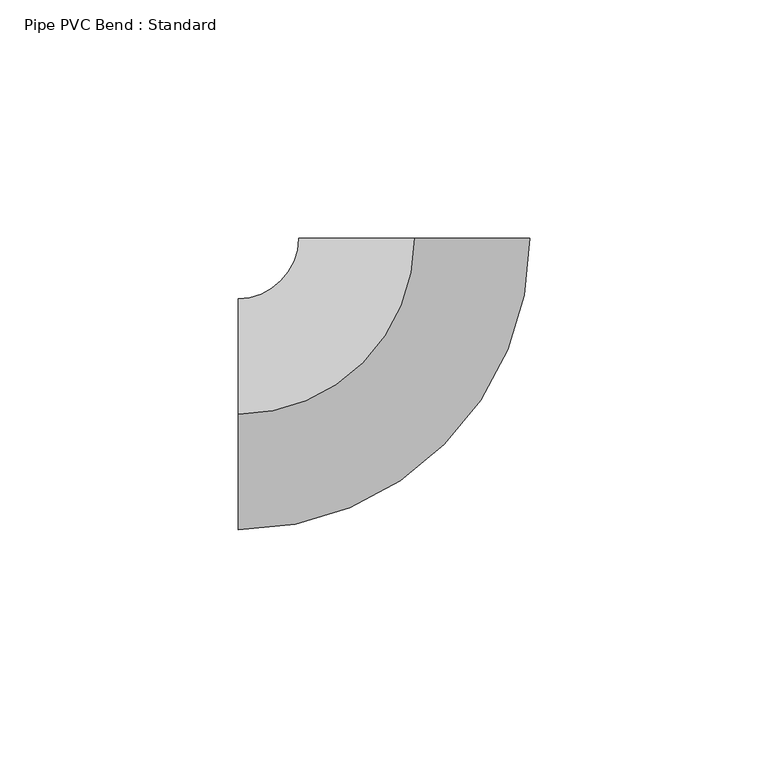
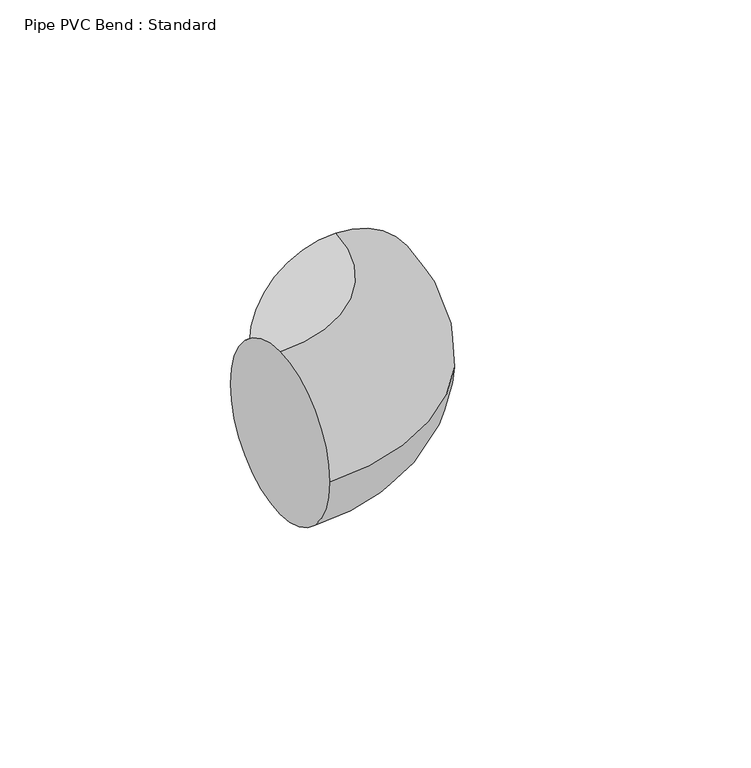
"""IFC4 building model written with IfcOpenShell, lengths in millimetres: pipe fitting geometry, Pipe PVC Bend : Standard."""

import ifcopenshell
import ifcopenshell.guid

model = None  # the IFC model being written
_history = None  # IfcOwnerHistory: only IFC2X3 demands one
_inside = {}  # id of a spatial element -> (the spatial element, [elements in it])
_under = {}  # id of a project, library or spatial element -> (it, [spatial elements below it])
_declared = {}  # id of a project -> (the project, [libraries it declares])
_typed = {}  # id of a type object -> (the type object, [elements of that type])
_made_of = {}  # id of a material, layer set ... -> (it, [elements and type objects made of it])


def new_model(schema):
    """Start an empty IFC model of exactly this schema.

    Asked for "IFC4X3", IfcOpenShell would pick the latest addendum, in which some entities
    have other attributes; the version numbers below select the first issue.
    IFC2X3 requires an IfcOwnerHistory on every rooted entity: one is made here for all.
    """
    global model, _history
    if schema == "IFC4X3":
        model = ifcopenshell.file(schema_version=(4, 3, 0, 0))
    else:
        model = ifcopenshell.file(schema=schema)
    _inside.clear()
    _under.clear()
    _declared.clear()
    _typed.clear()
    _made_of.clear()
    _history = None
    if model.schema == "IFC2X3":
        org = make("IfcOrganization", Name="unknown")
        user = make(
            "IfcPersonAndOrganization",
            ThePerson=make("IfcPerson", FamilyName="unknown"),
            TheOrganization=org,
        )
        app = make(
            "IfcApplication",
            ApplicationDeveloper=org,
            Version="unknown",
            ApplicationFullName="unknown",
            ApplicationIdentifier="unknown",
        )
        _history = make(
            "IfcOwnerHistory",
            OwningUser=user,
            OwningApplication=app,
            ChangeAction="ADDED",
            CreationDate=0,
        )
    return model


def make(cls, **values):
    """One entity of the class cls with the attributes given. An attribute that is None is left unset."""
    return model.create_entity(
        cls, **{name: value for name, value in values.items() if value is not None}
    )


def rooted(cls, **values):
    """An entity with a GlobalId (a new one), such as an element, a storey or a relation."""
    return make(cls, GlobalId=ifcopenshell.guid.new(), OwnerHistory=_history, **values)


def si_unit(unit_type, name, prefix=None):
    """IfcSIUnit, for example si_unit("LENGTHUNIT", "METRE", prefix="MILLI")."""
    return make("IfcSIUnit", UnitType=unit_type, Prefix=prefix, Name=name)


def assignment(units):
    """IfcUnitAssignment: the units of a project."""
    return None if units is None else make("IfcUnitAssignment", Units=units)


def point(xyz):
    """IfcCartesianPoint."""
    return None if xyz is None else make("IfcCartesianPoint", Coordinates=xyz)


def direction(xyz):
    """IfcDirection."""
    return None if xyz is None else make("IfcDirection", DirectionRatios=xyz)


def frame(location, z_axis=None, x_axis=None):
    """IfcAxis2Placement3D, a coordinate frame: its origin and axes. An axis left out is left unset."""
    return make(
        "IfcAxis2Placement3D",
        Location=point(location),
        Axis=direction(z_axis),
        RefDirection=direction(x_axis),
    )


def origin():
    """The frame at (0, 0, 0) with its axes left unset."""
    return frame((0.0, 0.0, 0.0))


def place(relative_to, where):
    """IfcLocalPlacement: puts the frame where relative to a parent placement (None: the world)."""
    return make(
        "IfcLocalPlacement", PlacementRelTo=relative_to, RelativePlacement=where
    )


def context(
    kind, dimensions, precision=None, world=None, true_north=None, identifier=None
):
    """IfcGeometricRepresentationContext, for example the 3D "Model" context."""
    return make(
        "IfcGeometricRepresentationContext",
        ContextIdentifier=identifier,
        ContextType=kind,
        CoordinateSpaceDimension=dimensions,
        Precision=precision,
        WorldCoordinateSystem=world,
        TrueNorth=true_north,
    )


def project(units=None, contexts=None):
    """IfcProject with its units and contexts."""
    return rooted(
        "IfcProject",
        Name="project",
        RepresentationContexts=contexts,
        UnitsInContext=assignment(units),
    )


def spatial(cls, under=None, at=None, **own):
    """A site, building, storey or space (cls), placed at a placement, below another one or the project."""
    s = rooted(cls, ObjectPlacement=at, **own)
    if under is not None:
        _under.setdefault(under.id(), (under, []))[1].append(s)
    return s


def circle_curve(where, radius):
    """IfcCircle in the frame where."""
    return make("IfcCircle", Position=where, Radius=radius)


def ellipse_curve(where, semi_axis1, semi_axis2):
    """IfcEllipse in the frame where."""
    return make(
        "IfcEllipse", Position=where, SemiAxis1=semi_axis1, SemiAxis2=semi_axis2
    )


def trimmed(basis, trim1, trim2, sense, master):
    """IfcTrimmedCurve: the piece of a basis curve between two trims."""
    return make(
        "IfcTrimmedCurve",
        BasisCurve=basis,
        Trim1=trim1,
        Trim2=trim2,
        SenseAgreement=sense,
        MasterRepresentation=master,
    )


def shape(context_of_items, identifier, shape_type, items):
    """IfcShapeRepresentation: the items that make up one representation, for example the "Body"."""
    return make(
        "IfcShapeRepresentation",
        ContextOfItems=context_of_items,
        RepresentationIdentifier=identifier,
        RepresentationType=shape_type,
        Items=items,
    )


def source(mapping_origin, context_of_items, identifier, shape_type, items):
    """IfcRepresentationMap: a shape defined once, which mapped items show again and again."""
    return make(
        "IfcRepresentationMap",
        MappingOrigin=mapping_origin,
        MappedRepresentation=shape(context_of_items, identifier, shape_type, items),
    )


def transform(
    local_origin,
    x_axis=None,
    y_axis=None,
    z_axis=None,
    scale=None,
    scale2=None,
    scale3=None,
    uniform=True,
):
    """IfcCartesianTransformationOperator3D, or its non-uniform kind. x_axis, y_axis, z_axis: its Axis1, 2, 3."""
    if uniform:
        return make(
            "IfcCartesianTransformationOperator3D",
            Axis1=direction(x_axis),
            Axis2=direction(y_axis),
            LocalOrigin=point(local_origin),
            Scale=scale,
            Axis3=direction(z_axis),
        )
    return make(
        "IfcCartesianTransformationOperator3DnonUniform",
        Axis1=direction(x_axis),
        Axis2=direction(y_axis),
        LocalOrigin=point(local_origin),
        Scale=scale,
        Axis3=direction(z_axis),
        Scale2=scale2,
        Scale3=scale3,
    )


def mapped(mapping_source, mapping_target):
    """IfcMappedItem: shows the shape of a source again, moved by a transform."""
    return make(
        "IfcMappedItem", MappingSource=mapping_source, MappingTarget=mapping_target
    )


def made_of(thing, what):
    """Note that an element or type object is made of a material, layer set ...; save() writes the relation."""
    if what is not None:
        _made_of.setdefault(what.id(), (what, []))[1].append(thing)
    return thing


def element(
    cls,
    number,
    at=None,
    inside=None,
    cuts=None,
    type_object=None,
    material=None,
    context=None,
    identifier="Body",
    shape_type=None,
    held_by="IfcProductDefinitionShape",
    body=None,
    shapes=None,
    **own,
):
    """One element of the class cls, such as IfcWall. Its Tag is "e" and its number.

    at: its placement. inside: the storey or other place that contains it. cuts: it is an
    opening in that element (IfcRelVoidsElement). A single representation is given by context,
    identifier, shape_type and body (its items); several are given by shapes. held_by: the class
    of the entity that holds the representations. save() writes the other relations.
    """
    e = rooted(cls, Tag="e%d" % number, ObjectPlacement=at, **own)
    if body is not None:
        shapes = [shape(context, identifier, shape_type, body)]
    if shapes is not None:
        e.Representation = make(held_by, Representations=shapes)
    if inside is not None:
        _inside.setdefault(inside.id(), (inside, []))[1].append(e)
    if cuts is not None:
        rooted(
            "IfcRelVoidsElement", RelatingBuildingElement=cuts, RelatedOpeningElement=e
        )
    if type_object is not None:
        _typed.setdefault(type_object.id(), (type_object, []))[1].append(e)
    return made_of(e, material)


def aggregate(whole, parts):
    """IfcRelAggregates: a whole, such as a stair, and the parts it consists of."""
    return rooted("IfcRelAggregates", RelatingObject=whole, RelatedObjects=parts)


def save(model, path):
    """Write the relations noted so far, then the file.

    IfcRelAggregates (storeys below a building ...), IfcRelContainedInSpatialStructure (elements
    in a storey), IfcRelDefinesByType, IfcRelAssociatesMaterial and IfcRelDeclares: one each for
    every whole, place, type object, material and project.
    """
    for whole, parts in _under.values():
        aggregate(whole, parts)
    for where, things in _inside.values():
        rooted(
            "IfcRelContainedInSpatialStructure",
            RelatedElements=things,
            RelatingStructure=where,
        )
    for kind, things in _typed.values():
        rooted("IfcRelDefinesByType", RelatedObjects=things, RelatingType=kind)
    for what, things in _made_of.values():
        rooted("IfcRelAssociatesMaterial", RelatedObjects=things, RelatingMaterial=what)
    for by, libraries in _declared.values():
        rooted("IfcRelDeclares", RelatingContext=by, RelatedDefinitions=libraries)
    model.write(path)


def plane_surface(at):
    """IfcPlane: the flat surface through the origin of the frame at, square to its z axis."""
    return make("IfcPlane", Position=at)


def revolved_surface(curve, axis_point, axis_direction):
    """IfcSurfaceOfRevolution: the curve turned about the line through axis_point along axis_direction."""
    return make(
        "IfcSurfaceOfRevolution",
        SweptCurve=make("IfcArbitraryOpenProfileDef", ProfileType="CURVE", Curve=curve),
        AxisPosition=make("IfcAxis1Placement", Location=point(axis_point), Axis=direction(axis_direction)),
    )


def advanced_brep(points, edges, surfaces, faces):
    """IfcAdvancedBrep: a solid bounded by faces that lie on surfaces and meet in shared edges.

    An edge is (start, end): straight between two places in points (the first is 0);
    or (start, end, curve); or (start, end, curve, False) where it runs against its curve.
    A face is (place in surfaces, loops), or (place, loops, False) where it looks against
    its surface's normal. A loop lists edges by number (the first is 1), with a minus sign
    where the edge is run from its end to its start. The first loop is the outer one.
    """
    corners = [point(p) for p in points]
    vertices = [make("IfcVertexPoint", VertexGeometry=c) for c in corners]
    made = []
    for start, end, *more in edges:
        made.append(
            make(
                "IfcEdgeCurve",
                EdgeStart=vertices[start],
                EdgeEnd=vertices[end],
                EdgeGeometry=more[0] if more else make("IfcPolyline", Points=[corners[start], corners[end]]),
                SameSense=more[1] if len(more) > 1 else True,
            )
        )
    hull = []
    for where, loops, *sense in faces:
        bounds = []
        for j, loop in enumerate(loops):
            ring = [make("IfcOrientedEdge", EdgeElement=made[abs(k) - 1], Orientation=k > 0) for k in loop]
            bounds.append(
                make(
                    "IfcFaceOuterBound" if j == 0 else "IfcFaceBound",
                    Bound=make("IfcEdgeLoop", EdgeList=ring),
                    Orientation=True,
                )
            )
        hull.append(make("IfcAdvancedFace", Bounds=bounds, FaceSurface=surfaces[where], SameSense=sense[0] if sense else True))
    return make("IfcAdvancedBrep", Outer=make("IfcClosedShell", CfsFaces=hull))


def pipe_pvc_bend_standard_b9ac6717(model_context):
    return source(origin(), model_context, "Body", "AdvancedBrep", [
        advanced_brep(
        [(-36.9529906, 0.0, 24.257), (-36.9529906, 24.257, 0.0), (-36.9529906, 0.0, -24.257), (-36.9529906, -24.257, 0.0), (0.0040092, 36.9529903, 24.257), (24.2610091, 36.9503586, 0.0), (0.0040092, 36.9529903, -24.257), (-24.2529906, 36.9556221, 0.0)],
        [
            (0, 1, circle_curve(frame((-36.9529906, 0.0, 0.0), z_axis=(-1.0, 0.0, 0.0), x_axis=(0.0, 1.0, 0.0)), 24.257)),
            (1, 2, circle_curve(frame((-36.9529906, 0.0, 0.0), z_axis=(-1.0, 0.0, 0.0), x_axis=(0.0, 1.0, 0.0)), 24.257)),
            (2, 3, circle_curve(frame((-36.9529906, 0.0, 0.0), z_axis=(-1.0, 0.0, 0.0), x_axis=(0.0, 1.0, 0.0)), 24.257)),
            (3, 0, circle_curve(frame((-36.9529906, 0.0, 0.0), z_axis=(-1.0, 0.0, 0.0), x_axis=(0.0, 1.0, 0.0)), 24.257)),
            (4, 5, circle_curve(frame((0.0040092, 36.9529903, 0.0), z_axis=(0.0001084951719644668, 0.9999999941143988, 0.0), x_axis=(-0.9999999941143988, 0.0001084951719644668, 0.0)), 24.257)),
            (5, 6, circle_curve(frame((0.0040092, 36.9529903, 0.0), z_axis=(0.0001084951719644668, 0.9999999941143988, 0.0), x_axis=(-0.9999999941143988, 0.0001084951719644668, 0.0)), 24.257)),
            (6, 7, circle_curve(frame((0.0040092, 36.9529903, 0.0), z_axis=(0.0001084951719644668, 0.9999999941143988, 0.0), x_axis=(-0.9999999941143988, 0.0001084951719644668, 0.0)), 24.257)),
            (7, 4, circle_curve(frame((0.0040092, 36.9529903, 0.0), z_axis=(0.0001084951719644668, 0.9999999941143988, 0.0), x_axis=(-0.9999999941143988, 0.0001084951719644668, 0.0)), 24.257)),
            (7, 1, circle_curve(frame((-36.9529906, 36.957, 0.0), z_axis=(0.0, 0.0, -1.0), x_axis=(0.0, -1.0, 0.0)), 12.7)),
            (0, 4, circle_curve(frame((-36.9529906, 36.957, 24.257), z_axis=(0.0, 0.0, 1.0), x_axis=(0.0, -1.0, 0.0)), 36.957)),
            (6, 2, circle_curve(frame((-36.9529906, 36.957, -24.257), z_axis=(0.0, 0.0, -1.0), x_axis=(0.0, -1.0, 0.0)), 36.957)),
            (5, 3, circle_curve(frame((-36.9529906, 36.957, 0.0), z_axis=(0.0, 0.0, -1.0), x_axis=(0.0, -1.0, 0.0)), 61.214)),
        ],
        [
            plane_surface(frame((-36.9529906, 0.0, 0.0), z_axis=(-1.0, 0.0, 0.0), x_axis=(0.0, 0.0, 1.0))),
            plane_surface(frame((0.0040092, 36.9529903, 0.0), z_axis=(0.00010849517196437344, 0.9999999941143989, 0.0), x_axis=(0.0, 0.0, 1.0))),
            revolved_surface(trimmed(ellipse_curve(frame((-36.9529906, 0.0, 0.0), z_axis=(-1.0, 0.0, 0.0), x_axis=(0.0, 1.0, 0.0)), 24.257, 24.257), [point((-36.9529906, 0.0, 24.257))], [point((-36.9529906, 24.257, 0.0))], True, "CARTESIAN"), (-36.9529906, 36.957, 0.0), (0.0, 0.0, 1.0)),
            revolved_surface(trimmed(ellipse_curve(frame((-36.9529906, 0.0, 0.0), z_axis=(-1.0, 0.0, 0.0), x_axis=(0.0, 1.0, 0.0)), 24.257, 24.257), [point((-36.9529906, 24.257, 0.0))], [point((-36.9529906, 0.0, -24.257))], True, "CARTESIAN"), (-36.9529906, 36.957, 0.0), (0.0, 0.0, 1.0)),
            revolved_surface(trimmed(ellipse_curve(frame((-36.9529906, 0.0, 0.0), z_axis=(-1.0, 0.0, 0.0), x_axis=(0.0, 1.0, 0.0)), 24.257, 24.257), [point((-36.9529906, 0.0, -24.257))], [point((-36.9529906, -24.257, 0.0))], True, "CARTESIAN"), (-36.9529906, 36.957, 0.0), (0.0, 0.0, 1.0)),
            revolved_surface(trimmed(ellipse_curve(frame((-36.9529906, 0.0, 0.0), z_axis=(-1.0, 0.0, 0.0), x_axis=(0.0, 1.0, 0.0)), 24.257, 24.257), [point((-36.9529906, -24.257, 0.0))], [point((-36.9529906, 0.0, 24.257))], True, "CARTESIAN"), (-36.9529906, 36.957, 0.0), (0.0, 0.0, 1.0)),
        ],
        [
            (0, [[1, 2, 3, 4]]),
            (1, [[5, 6, 7, 8]]),
            (2, [[9, -1, 10, -8]]),
            (3, [[11, -2, -9, -7]]),
            (4, [[12, -3, -11, -6]]),
            (5, [[-10, -4, -12, -5]]),
        ],
    ),
        advanced_brep(
        [(-36.9529906, 0.0, 24.257), (-36.9529906, 24.257, 0.0), (-36.9529906, 0.0, -24.257), (-36.9529906, -24.257, 0.0), (0.0040092, 36.9529903, 24.257), (24.2610091, 36.9503586, 0.0), (0.0040092, 36.9529903, -24.257), (-24.2529906, 36.9556221, 0.0)],
        [
            (0, 1, circle_curve(frame((-36.9529906, 0.0, 0.0), z_axis=(-1.0, 0.0, 0.0), x_axis=(0.0, 1.0, 0.0)), 24.257)),
            (1, 2, circle_curve(frame((-36.9529906, 0.0, 0.0), z_axis=(-1.0, 0.0, 0.0), x_axis=(0.0, 1.0, 0.0)), 24.257)),
            (2, 3, circle_curve(frame((-36.9529906, 0.0, 0.0), z_axis=(-1.0, 0.0, 0.0), x_axis=(0.0, 1.0, 0.0)), 24.257)),
            (3, 0, circle_curve(frame((-36.9529906, 0.0, 0.0), z_axis=(-1.0, 0.0, 0.0), x_axis=(0.0, 1.0, 0.0)), 24.257)),
            (4, 5, circle_curve(frame((0.0040092, 36.9529903, 0.0), z_axis=(0.0001084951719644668, 0.9999999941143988, 0.0), x_axis=(-0.9999999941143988, 0.0001084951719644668, 0.0)), 24.257)),
            (5, 6, circle_curve(frame((0.0040092, 36.9529903, 0.0), z_axis=(0.0001084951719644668, 0.9999999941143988, 0.0), x_axis=(-0.9999999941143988, 0.0001084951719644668, 0.0)), 24.257)),
            (6, 7, circle_curve(frame((0.0040092, 36.9529903, 0.0), z_axis=(0.0001084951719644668, 0.9999999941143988, 0.0), x_axis=(-0.9999999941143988, 0.0001084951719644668, 0.0)), 24.257)),
            (7, 4, circle_curve(frame((0.0040092, 36.9529903, 0.0), z_axis=(0.0001084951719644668, 0.9999999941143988, 0.0), x_axis=(-0.9999999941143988, 0.0001084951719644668, 0.0)), 24.257)),
            (7, 1, circle_curve(frame((-36.9529906, 36.957, 0.0), z_axis=(0.0, 0.0, -1.0), x_axis=(0.0, -1.0, 0.0)), 12.7)),
            (0, 4, circle_curve(frame((-36.9529906, 36.957, 24.257), z_axis=(0.0, 0.0, 1.0), x_axis=(0.0, -1.0, 0.0)), 36.957)),
            (6, 2, circle_curve(frame((-36.9529906, 36.957, -24.257), z_axis=(0.0, 0.0, -1.0), x_axis=(0.0, -1.0, 0.0)), 36.957)),
            (5, 3, circle_curve(frame((-36.9529906, 36.957, 0.0), z_axis=(0.0, 0.0, -1.0), x_axis=(0.0, -1.0, 0.0)), 61.214)),
        ],
        [
            plane_surface(frame((-36.9529906, 0.0, 0.0), z_axis=(-1.0, 0.0, 0.0), x_axis=(0.0, 0.0, 1.0))),
            plane_surface(frame((0.0040092, 36.9529903, 0.0), z_axis=(0.00010849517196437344, 0.9999999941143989, 0.0), x_axis=(0.0, 0.0, 1.0))),
            revolved_surface(trimmed(ellipse_curve(frame((-36.9529906, 0.0, 0.0), z_axis=(-1.0, 0.0, 0.0), x_axis=(0.0, 1.0, 0.0)), 24.257, 24.257), [point((-36.9529906, 0.0, 24.257))], [point((-36.9529906, 24.257, 0.0))], True, "CARTESIAN"), (-36.9529906, 36.957, 0.0), (0.0, 0.0, 1.0)),
            revolved_surface(trimmed(ellipse_curve(frame((-36.9529906, 0.0, 0.0), z_axis=(-1.0, 0.0, 0.0), x_axis=(0.0, 1.0, 0.0)), 24.257, 24.257), [point((-36.9529906, 24.257, 0.0))], [point((-36.9529906, 0.0, -24.257))], True, "CARTESIAN"), (-36.9529906, 36.957, 0.0), (0.0, 0.0, 1.0)),
            revolved_surface(trimmed(ellipse_curve(frame((-36.9529906, 0.0, 0.0), z_axis=(-1.0, 0.0, 0.0), x_axis=(0.0, 1.0, 0.0)), 24.257, 24.257), [point((-36.9529906, 0.0, -24.257))], [point((-36.9529906, -24.257, 0.0))], True, "CARTESIAN"), (-36.9529906, 36.957, 0.0), (0.0, 0.0, 1.0)),
            revolved_surface(trimmed(ellipse_curve(frame((-36.9529906, 0.0, 0.0), z_axis=(-1.0, 0.0, 0.0), x_axis=(0.0, 1.0, 0.0)), 24.257, 24.257), [point((-36.9529906, -24.257, 0.0))], [point((-36.9529906, 0.0, 24.257))], True, "CARTESIAN"), (-36.9529906, 36.957, 0.0), (0.0, 0.0, 1.0)),
        ],
        [
            (0, [[1, 2, 3, 4]]),
            (1, [[5, 6, 7, 8]]),
            (2, [[9, -1, 10, -8]]),
            (3, [[11, -2, -9, -7]]),
            (4, [[12, -3, -11, -6]]),
            (5, [[-10, -4, -12, -5]]),
        ],
    ),
    ])


if __name__ == "__main__":
    model = new_model("IFC4")
    model_context = context("Model", 3, world=origin())
    ifc_project = project(units=[si_unit("LENGTHUNIT", "METRE", prefix="MILLI")], contexts=[model_context])
    site = spatial("IfcSite", under=ifc_project)
    building = spatial("IfcBuilding", under=site)
    placement = place(None, origin())
    pipe_pvc_bend_standard_shape = pipe_pvc_bend_standard_b9ac6717(model_context)
    element("IfcPipeFitting", 1, ObjectType="Pipe PVC Bend : Standard", at=placement, inside=building, context=model_context, shape_type="MappedRepresentation", body=[
        mapped(pipe_pvc_bend_standard_shape, transform((0.0, 0.0, 0.0), x_axis=(1.0, 0.0, 0.0), y_axis=(0.0, 1.0, 0.0), z_axis=(0.0, 0.0, 1.0))),
    ])
    save(model, "model.ifc")
